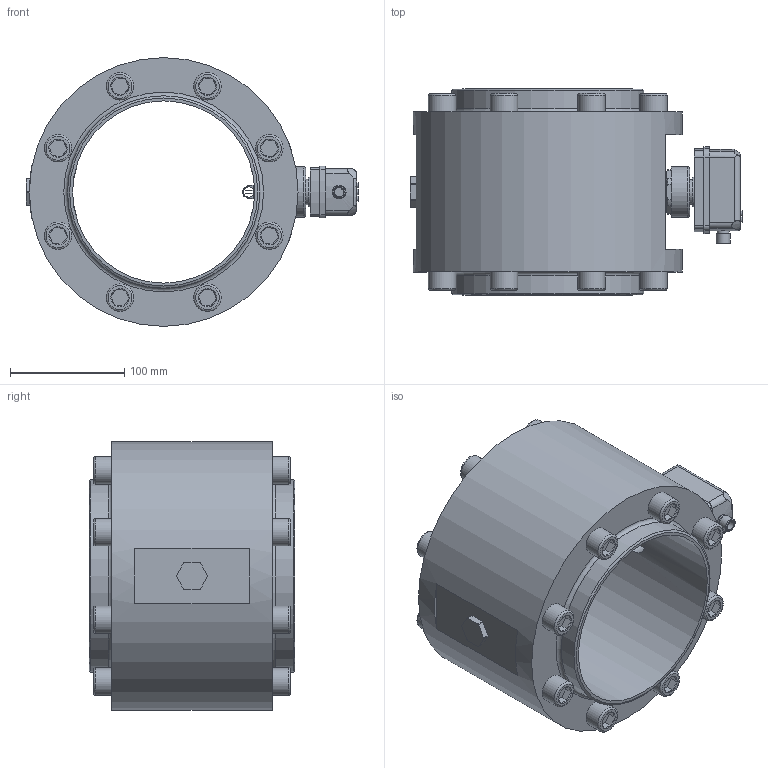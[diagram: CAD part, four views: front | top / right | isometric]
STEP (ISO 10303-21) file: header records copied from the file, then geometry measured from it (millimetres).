
FILE_DESCRIPTION(/* description */ ('STEP AP203'),/* implementation_level */ '2;1');
FILE_NAME(/* name */ 'P_MZ_300_0322',/* time_stamp */ '2023-01-20T10:24:20+01:00',/* author */ ('License CC BY-ND 4.0'),/* organization */ ('CADENAS'),/* preprocessor_version */ 'ST-DEVELOPER v18.102',/* originating_system */ 'PARTsolutions',/* authorisation */ ' ');
FILE_SCHEMA (('CONFIG_CONTROL_DESIGN','AUTOMOTIVE_DESIGN { 1 0 10303 214 3 1 1 }'));
Length unit declared in the file: millimetre
Products named in the file (3): P_MZ_300_0322; P_MZ_300_0316_P2; P_MZ_300_0322_P1
Assembly tree (2 placements, depth 2):
  P_MZ_300_0322
    P_MZ_300_0316_P2
    P_MZ_300_0322_P1
Bounding box: 290.29 x 180 x 235 mm (x, y, z)
Volume: 3475554.9 mm3; surface area: 321038.5 mm2
Topology: 2 solids, 2 shells, 570 faces, 1419 edges, 927 vertices
Faces by surface type: plane 292, cone 144, cylinder 101, torus 29, sphere 4
Full cylindrical faces by diameter (mm): 4.1 x1, 4.45 x3, 5 x4, 8.398 x1, 9.06 x1, 10.5 x1, 12 x2, 15 x1, 16 x4, 17 x4, 18.5 x1, 18.631 x1, 20 x1, 22 x1, 24 x16, 26 x1, 26.16 x1, 28.1 x1, 30 x1, 33.5 x1, 44 x1, 159.3 x1, 168.3 x2, 235 x1
Entity records: 20668 total; most frequent: CARTESIAN_POINT 3486, DIRECTION 2677, ORIENTED_EDGE 2602, EDGE_CURVE 1301, AXIS2_PLACEMENT_3D 973, VERTEX_POINT 908, FACE_BOUND 747, EDGE_LOOP 743
